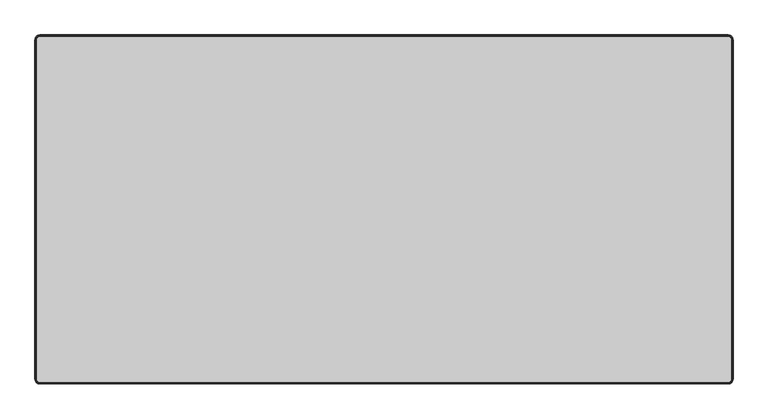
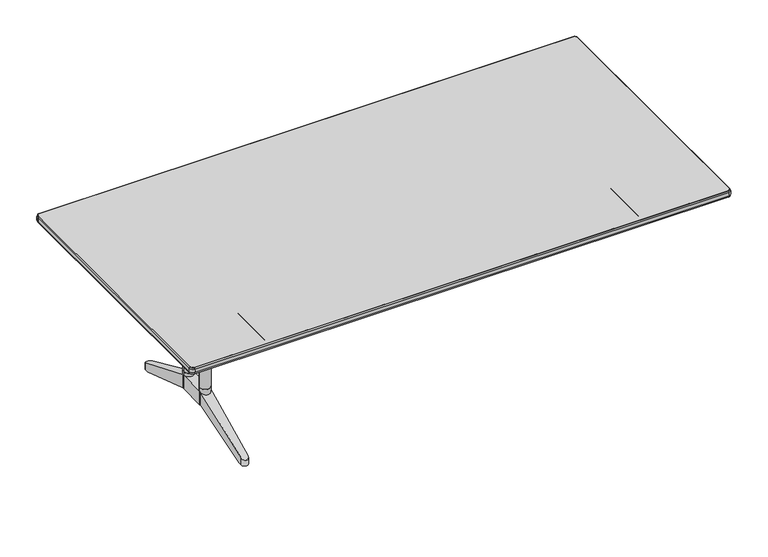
"""IFC4 building model written with IfcOpenShell, lengths in millimetres: furniture geometry, Furniture_Wilkhahn_614-00_TimetableShift : TIMETABLE SHIFT 614/00 2100L x 1050W."""

from ifc_helpers import new_model, si_unit, point, frame, frame_2d, origin, place, context, project, spatial, polyline, circle_curve, ellipse_curve, trimmed, segment, composite_curve, outline, extrude, source, transform, mapped, element, save
from ifc_brep_helpers import plane_surface, cylinder_surface, revolved_surface, advanced_brep


def furniture_36a09803(model_context):
    return source(origin(), model_context, "Body", "SolidModel", [
        extrude(outline(composite_curve([segment(trimmed(circle_curve(frame_2d((-725.0, -154.0488451)), 20.0), [point((-745.0, -154.0488451))], [point((-705.0, -154.0488451))], False, "CARTESIAN"), True, "CONTINUOUS"), segment(trimmed(circle_curve(frame_2d((-725.0, -154.0488451)), 20.0), [point((-705.0, -154.0488451))], [point((-745.0, -154.0488451))], False, "CARTESIAN"), True, "CONTINUOUS")], self_intersect=False)), frame((0.0, 0.0, 193.3080085), z_axis=(0.0, 0.0, 1.0), x_axis=(1.0, 0.0, 0.0)), (0.0, 0.0, 1.0), 68.8536941),
        extrude(outline(composite_curve([segment(trimmed(circle_curve(frame_2d((-725.0, -44.0488461)), 20.0), [point((-745.0, -44.0488461))], [point((-705.0, -44.0488461))], False, "CARTESIAN"), True, "CONTINUOUS"), segment(trimmed(circle_curve(frame_2d((-725.0, -44.0488461)), 20.0), [point((-705.0, -44.0488461))], [point((-745.0, -44.0488461))], False, "CARTESIAN"), True, "CONTINUOUS")], self_intersect=False)), frame((0.0, 0.0, 193.3080085), z_axis=(0.0, 0.0, 1.0), x_axis=(1.0, 0.0, 0.0)), (0.0, 0.0, 1.0), 68.8536941),
        extrude(outline(composite_curve([segment(trimmed(circle_curve(frame_2d((-725.0, -154.0488451)), 20.0), [point((-745.0, -154.0488451))], [point((-705.0, -154.0488451))], False, "CARTESIAN"), True, "CONTINUOUS"), segment(trimmed(circle_curve(frame_2d((-725.0, -154.0488451)), 20.0), [point((-705.0, -154.0488451))], [point((-745.0, -154.0488451))], False, "CARTESIAN"), True, "CONTINUOUS")], self_intersect=False)), frame((0.0, 0.0, 262.1617027), z_axis=(0.0, 0.0, 1.0), x_axis=(1.0, 0.0, 0.0)), (0.0, 0.0, 1.0), 317.8382973),
        extrude(outline(composite_curve([segment(trimmed(circle_curve(frame_2d((-725.0, -44.0488461)), 20.0), [point((-745.0, -44.0488461))], [point((-705.0, -44.0488461))], False, "CARTESIAN"), True, "CONTINUOUS"), segment(trimmed(circle_curve(frame_2d((-725.0, -44.0488461)), 20.0), [point((-705.0, -44.0488461))], [point((-745.0, -44.0488461))], False, "CARTESIAN"), True, "CONTINUOUS")], self_intersect=False)), frame((0.0, 0.0, 262.1617027), z_axis=(0.0, 0.0, 1.0), x_axis=(1.0, 0.0, 0.0)), (0.0, 0.0, 1.0), 317.8382973),
        extrude(outline(polyline([(-698.9999882, 147.9511612), (-698.9999882, -352.0488426), (-751.0000118, -352.0488426), (-751.0000118, 147.9511612), (-698.9999882, 147.9511612)])), frame((0.0, 0.0, 676.0000168), z_axis=(0.0, 0.0, 1.0), x_axis=(1.0, 0.0, 0.0)), (0.0, 0.0, 1.0), 27.9999624),
        advanced_brep(
        [(-739.9998762, -140.8200278, 676.0000168), (-709.9998905, -140.8201331, 676.0000168), (-709.9998905, -134.0488456, 676.0000168), (-739.9998762, -134.0488456, 676.0000168), (-709.9998905, -57.2775581, 676.0000168), (-739.9998762, -57.2776634, 676.0000168), (-739.9998762, -64.0488456, 676.0000168), (-709.9998905, -64.0488456, 676.0000168), (-739.9998762, -57.2776634, 580.0), (-709.9998905, -57.2775581, 580.0), (-709.9998905, -140.8201331, 580.0), (-739.9998762, -140.8200278, 580.0), (-739.9998762, -134.0488456, 598.0000176), (-739.9998762, -64.0488456, 598.0000176), (-709.9998905, -64.0488456, 598.0000176), (-709.9998905, -134.0488456, 598.0000176)],
        [
            (0, 1, circle_curve(frame((-724.9999298, -154.0488451, 676.0000168), z_axis=(0.0, 0.0, 1.0), x_axis=(1.0, 0.0, 0.0)), 20.0)),
            (1, 2),
            (2, 3),
            (3, 0),
            (4, 5, circle_curve(frame((-724.9999298, -44.0488461, 676.0000168), z_axis=(0.0, 0.0, 1.0), x_axis=(1.0, 0.0, 0.0)), 20.0)),
            (5, 6),
            (6, 7),
            (7, 4),
            (8, 9, circle_curve(frame((-724.9999298, -44.0488461, 580.0), z_axis=(0.0, 0.0, -1.0), x_axis=(1.0, 0.0, 0.0)), 20.0)),
            (9, 10),
            (10, 11, circle_curve(frame((-724.9999298, -154.0488451, 580.0), z_axis=(0.0, 0.0, -1.0), x_axis=(1.0, 0.0, 0.0)), 20.0)),
            (11, 8),
            (11, 0),
            (3, 12),
            (12, 13),
            (13, 6),
            (5, 8),
            (10, 1),
            (9, 4),
            (7, 14),
            (14, 15),
            (15, 2),
            (15, 12),
            (14, 13),
        ],
        [
            plane_surface(frame((-739.9998762, -140.8200278, 676.0000168), z_axis=(0.0, 0.0, 1.0), x_axis=(0.0, -1.0, 0.0))),
            plane_surface(frame((-739.9998762, -140.8200278, 580.0), z_axis=(0.0, 0.0, -1.0), x_axis=(0.0, 1.0, 0.0))),
            plane_surface(frame((-739.9998762, -57.2776634, 676.0000168), z_axis=(-1.0, 0.0, 0.0), x_axis=(0.0, 0.0, -1.0))),
            cylinder_surface(frame((-724.9999298, -154.0488451, 580.0), z_axis=(0.0, 0.0, 1.0), x_axis=(1.0, 0.0, 0.0)), 20.0),
            plane_surface(frame((-709.9998905, -140.8201331, 676.0000168), z_axis=(1.0, 0.0, 0.0), x_axis=(0.0, 0.0, -1.0))),
            cylinder_surface(frame((-724.9999298, -44.0488461, 580.0), z_axis=(0.0, 0.0, 1.0), x_axis=(1.0, 0.0, 0.0)), 20.0),
            plane_surface(frame((-709.9998905, -134.0488456, 676.0000168), z_axis=(0.0, 1.0, 0.0), x_axis=(-1.0, 0.0, 0.0))),
            plane_surface(frame((-709.9998905, -134.0488456, 598.0000176), z_axis=(0.0, 0.0, 1.0), x_axis=(-1.0, 0.0, 0.0))),
            plane_surface(frame((-709.9998905, -64.0488456, 598.0000176), z_axis=(0.0, -1.0, 0.0), x_axis=(-1.0, 0.0, 0.0))),
        ],
        [
            (0, [[1, 2, 3, 4]]),
            (0, [[5, 6, 7, 8]]),
            (1, [[9, 10, 11, 12]]),
            (2, [[-12, 13, -4, 14, 15, 16, -6, 17]]),
            (3, [[-1, -13, -11, 18]]),
            (4, [[-10, 19, -8, 20, 21, 22, -2, -18]]),
            (5, [[-5, -19, -9, -17]]),
            (6, [[23, -14, -3, -22]]),
            (7, [[-23, -21, 24, -15]]),
            (8, [[-24, -20, -7, -16]]),
        ],
    ),
        advanced_brep(
        [(-711.5271049, 208.4135103, 105.0), (-738.472897, 208.4135103, 105.0), (-738.1262294, 221.8222582, 105.0), (-711.8737706, 221.8222564, 105.0), (-738.1262294, 221.8222582, 133.4205559), (-745.0000182, -44.0488461, 248.3080085), (-705.0000182, -44.0488461, 248.3080085), (-711.8737706, 221.8222564, 133.4205567), (-705.2000412, -36.3121196, 193.3080085), (-744.7999941, -36.3121196, 193.3080085), (-711.8737706, -419.9199475, 133.4205567), (-705.0000182, -154.0488451, 248.3080085), (-745.0000182, -154.0488451, 248.3080085), (-738.1262294, -419.9199493, 133.4205559), (-711.8737706, -419.9199475, 105.0), (-711.5271049, -406.5112014, 105.0), (-705.2000412, -161.7855715, 193.3080085), (-705.0000182, -154.0488451, 193.3080085), (-738.1262294, -419.9199493, 105.0), (-745.0000182, -154.0488451, 193.3080085), (-744.7999941, -161.7855715, 193.3080085), (-738.472897, -406.5112014, 105.0), (-745.0000182, -44.0488461, 193.3080085), (-705.0000182, -44.0488461, 193.3080085)],
        [
            (0, 1),
            (1, 2),
            (2, 3, circle_curve(frame((-725.0, 221.4828948, 105.0), z_axis=(0.0, 0.0, -1.0), x_axis=(1.0, 0.0, 0.0)), 13.1306156)),
            (3, 0),
            (4, 5),
            (5, 6),
            (6, 7),
            (7, 4, ellipse_curve(frame((-725.0, 221.4828948, 133.5672007), z_axis=(0.0, 0.3966672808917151, 0.9179624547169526), x_axis=(0.0, 0.9179624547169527, -0.39666728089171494)), 14.3040878, 13.1306156)),
            (0, 8),
            (8, 9),
            (9, 1),
            (10, 11),
            (11, 12),
            (12, 13),
            (13, 10, ellipse_curve(frame((-725.0, -419.5805859, 133.5672007), z_axis=(0.0, -0.3966672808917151, 0.9179624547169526), x_axis=(0.0, -0.9179624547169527, -0.39666728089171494)), 14.3040878, 13.1306156)),
            (10, 14),
            (14, 15),
            (15, 16),
            (16, 17),
            (17, 11),
            (13, 18),
            (18, 14, circle_curve(frame((-725.0, -419.5805859, 105.0), z_axis=(0.0, 0.0, 1.0), x_axis=(1.0, 0.0, 0.0)), 13.1306156)),
            (12, 19),
            (19, 20),
            (20, 21),
            (21, 18),
            (4, 2),
            (9, 22),
            (22, 5),
            (7, 3),
            (6, 23),
            (23, 8),
            (21, 15),
            (20, 16),
            (11, 6),
            (5, 12),
            (22, 19),
            (17, 23),
        ],
        [
            plane_surface(frame((-703.6205415, 208.4135103, 105.0), z_axis=(0.0, 0.0, -1.0), x_axis=(-1.0, 0.0, 0.0))),
            plane_surface(frame((-703.6205415, 235.9511544, 127.3152182), z_axis=(0.0, 0.3966672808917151, 0.9179624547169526), x_axis=(-1.0, 0.0, 0.0))),
            plane_surface(frame((-703.6205415, -36.3121196, 193.3080085), z_axis=(0.0, -0.3394229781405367, -0.9406338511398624), x_axis=(-1.0, 0.0, 0.0))),
            plane_surface(frame((-703.6205415, -154.0488451, 248.3080085), z_axis=(0.0, -0.3966672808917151, 0.9179624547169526), x_axis=(-1.0, 0.0, 0.0))),
            plane_surface(frame((-705.0000182, -154.0488451, 249.0000084), z_axis=(0.9996659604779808, -0.025845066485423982, 0.0), x_axis=(0.0, 0.0, -1.0))),
            cylinder_surface(frame((-725.0, -419.5805859, 90.0000025), z_axis=(0.0, 0.0, -1.0), x_axis=(1.0, 0.0, 0.0)), 13.1306156),
            plane_surface(frame((-738.1262294, -419.9199493, 249.0000084), z_axis=(-0.9996659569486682, -0.025845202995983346, 0.0), x_axis=(0.0, 0.0, -1.0))),
            plane_surface(frame((-745.0000182, -44.0488461, 249.0000084), z_axis=(-0.9996659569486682, 0.025845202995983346, 0.0), x_axis=(0.0, 0.0, -1.0))),
            cylinder_surface(frame((-725.0, 221.4828948, 0.0), z_axis=(0.0, 0.0, -1.0), x_axis=(1.0, 0.0, 0.0)), 13.1306156),
            plane_surface(frame((-711.8737706, 221.8222564, 249.0000084), z_axis=(0.9996659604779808, 0.025845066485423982, 0.0), x_axis=(0.0, 0.0, -1.0))),
            plane_surface(frame((-703.6205415, -434.0488456, 105.0), z_axis=(0.0, 0.0, -1.0), x_axis=(-1.0, 0.0, 0.0))),
            plane_surface(frame((-703.6205415, -406.5112014, 105.0), z_axis=(0.0, 0.3394229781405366, -0.9406338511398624), x_axis=(-1.0, 0.0, 0.0))),
            plane_surface(frame((-705.0000182, -44.0488461, 248.3080085), z_axis=(0.0, 0.0, 1.0), x_axis=(0.0, 1.0, 0.0))),
            plane_surface(frame((-745.0000182, -44.0488461, 248.3080085), z_axis=(-1.0, 0.0, 0.0), x_axis=(0.0, 0.0, -1.0))),
            plane_surface(frame((-705.0000182, -154.0488451, 248.3080085), z_axis=(1.0, 0.0, 0.0), x_axis=(0.0, 0.0, -1.0))),
            plane_surface(frame((-703.6205415, -44.0488461, 193.3080085), z_axis=(0.0, 0.0, -1.0), x_axis=(-1.0, 0.0, 0.0))),
        ],
        [
            (0, [[1, 2, 3, 4]]),
            (1, [[5, 6, 7, 8]]),
            (2, [[-1, 9, 10, 11]]),
            (3, [[12, 13, 14, 15]]),
            (4, [[16, 17, 18, 19, 20, -12]]),
            (5, [[-16, -15, 21, 22]]),
            (6, [[-21, -14, 23, 24, 25, 26]]),
            (7, [[27, -2, -11, 28, 29, -5]]),
            (8, [[-27, -8, 30, -3]]),
            (9, [[-30, -7, 31, 32, -9, -4]]),
            (10, [[33, -17, -22, -26]]),
            (11, [[-33, -25, 34, -18]]),
            (12, [[35, -6, 36, -13]]),
            (13, [[-36, -29, 37, -23]]),
            (14, [[-35, -20, 38, -31]]),
            (15, [[-10, -32, -38, -19, -34, -24, -37, -28]]),
        ],
    ),
        extrude(outline(composite_curve([segment(trimmed(circle_curve(frame_2d((-1035.0, 410.9511544)), 10.0), [point((-1045.0, 410.9511544))], [point((-1035.0, 420.9511544))], False, "CARTESIAN"), True, "CONTINUOUS"), segment(polyline([(-1035.0, 420.9511544), (1035.0, 420.9511544)]), True, "CONTINUOUS"), segment(trimmed(circle_curve(frame_2d((1035.0, 410.9511544)), 10.0), [point((1035.0, 420.9511544))], [point((1045.0, 410.9511544))], False, "CARTESIAN"), True, "CONTINUOUS"), segment(polyline([(1045.0, 410.9511544), (1045.0, -609.0488456)]), True, "CONTINUOUS"), segment(trimmed(circle_curve(frame_2d((1035.0, -609.0488456)), 10.0), [point((1045.0, -609.0488456))], [point((1035.0, -619.0488456))], False, "CARTESIAN"), True, "CONTINUOUS"), segment(polyline([(1035.0, -619.0488456), (-1035.0, -619.0488456)]), True, "CONTINUOUS"), segment(trimmed(circle_curve(frame_2d((-1035.0, -609.0488456)), 10.0), [point((-1035.0, -619.0488456))], [point((-1045.0, -609.0488456))], False, "CARTESIAN"), True, "CONTINUOUS"), segment(polyline([(-1045.0, -609.0488456), (-1045.0, 410.9511544)]), True, "CONTINUOUS")], self_intersect=False)), frame((0.0, 0.0, 703.9999792), z_axis=(0.0, 0.0, 1.0), x_axis=(1.0, 0.0, 0.0)), (0.0, 0.0, 1.0), 26.0000208),
        extrude(outline(composite_curve([segment(trimmed(circle_curve(frame_2d((689.999998, -725.0)), 3.5), [point((686.499998, -725.0))], [point((693.499998, -725.0))], False, "CARTESIAN"), True, "CONTINUOUS"), segment(trimmed(circle_curve(frame_2d((689.999998, -725.0)), 3.5), [point((693.499998, -725.0))], [point((686.499998, -725.0))], False, "CARTESIAN"), True, "CONTINUOUS")], self_intersect=False)), frame((0.0, -550.4394749, 0.0), z_axis=(0.0, 1.0, 0.0), x_axis=(0.0, 0.0, 1.0)), (0.0, 0.0, 1.0), 198.3906323),
        extrude(outline(composite_curve([segment(trimmed(circle_curve(frame_2d((689.999998, 725.0)), 3.5), [point((686.499998, 725.0))], [point((693.499998, 725.0))], False, "CARTESIAN"), True, "CONTINUOUS"), segment(trimmed(circle_curve(frame_2d((689.999998, 725.0)), 3.5), [point((693.499998, 725.0))], [point((686.499998, 725.0))], False, "CARTESIAN"), True, "CONTINUOUS")], self_intersect=False)), frame((0.0, -550.4394749, 0.0), z_axis=(0.0, 1.0, 0.0), x_axis=(0.0, 0.0, 1.0)), (0.0, 0.0, 1.0), 198.3906323),
        advanced_brep(
        [(-1035.0, -619.0488456, 703.9999792), (-1045.0, -609.0488456, 703.9999792), (-1045.0, -609.0488456, 730.0), (-1035.0, -619.0488456, 730.0), (-1035.0, -622.4983863, 710.4062743), (-1048.4495407, -609.0488456, 710.4062743), (-1046.2436764, -609.0488456, 703.9999792), (-1035.0, -620.292522, 703.9999792), (-1035.0, -622.4983863, 723.593705), (-1048.4495407, -609.0488456, 723.593705), (-1035.0, -620.292522, 730.0), (-1046.2436764, -609.0488456, 730.0), (1035.0, -619.0488456, 730.0), (1035.0, -619.0488456, 703.9999792), (1035.0, -620.292522, 703.9999792), (1035.0, -622.4983863, 710.4062743), (1035.0, -622.4983863, 723.593705), (1035.0, -620.292522, 730.0), (1045.0, -609.0488456, 703.9999792), (1045.0, -609.0488456, 730.0), (1048.4495407, -609.0488456, 710.4062743), (1046.2436764, -609.0488456, 703.9999792), (1048.4495407, -609.0488456, 723.593705), (1046.2436764, -609.0488456, 730.0), (1045.0, 410.9511544, 730.0), (1045.0, 410.9511544, 703.9999792), (1046.2436764, 410.9511544, 703.9999792), (1048.4495407, 410.9511544, 710.4062743), (1048.4495407, 410.9511544, 723.593705), (1046.2436764, 410.9511544, 730.0), (1035.0, 420.9511544, 703.9999792), (1035.0, 420.9511544, 730.0), (1035.0, 424.4006952, 710.4062743), (1035.0, 422.1948309, 703.9999792), (1035.0, 424.4006952, 723.593705), (1035.0, 422.1948309, 730.0), (-1035.0, 420.9511544, 730.0), (-1035.0, 420.9511544, 703.9999792), (-1035.0, 422.1948309, 703.9999792), (-1035.0, 424.4006952, 710.4062743), (-1035.0, 424.4006952, 723.593705), (-1035.0, 422.1948309, 730.0), (-1045.0, 410.9511544, 703.9999792), (-1045.0, 410.9511544, 730.0), (-1048.4495407, 410.9511544, 710.4062743), (-1046.2436764, 410.9511544, 703.9999792), (-1048.4495407, 410.9511544, 723.593705), (-1046.2436764, 410.9511544, 730.0)],
        [
            (0, 1, circle_curve(frame((-1035.0, -609.0488456, 703.9999792), z_axis=(0.0, 0.0, -1.0), x_axis=(-1.0, 0.0, 0.0)), 10.0)),
            (1, 2),
            (2, 3, circle_curve(frame((-1035.0, -609.0488456, 730.0), z_axis=(0.0, 0.0, 1.0), x_axis=(-1.0, 0.0, 0.0)), 10.0)),
            (3, 0),
            (4, 5, circle_curve(frame((-1035.0, -609.0488456, 710.4062743), z_axis=(0.0, 0.0, -1.0), x_axis=(-1.0, 0.0, 0.0)), 13.4495407)),
            (5, 6),
            (6, 7, circle_curve(frame((-1035.0, -609.0488456, 703.9999792), z_axis=(0.0, 0.0, 1.0), x_axis=(-1.0, 0.0, 0.0)), 11.2436764)),
            (7, 4),
            (8, 9, circle_curve(frame((-1035.0, -609.0488456, 723.593705), z_axis=(0.0, 0.0, -1.0), x_axis=(-1.0, 0.0, 0.0)), 13.4495407)),
            (9, 5, circle_curve(frame((-1035.2040596, -609.0488456, 716.9999896), z_axis=(0.0, -1.0, 0.0), x_axis=(1.0, 0.0, 0.0)), 14.7959404)),
            (4, 8, circle_curve(frame((-1035.0, -609.2529051, 716.9999896), z_axis=(-1.0, 0.0, 0.0), x_axis=(0.0, 1.0, 0.0)), 14.7959404)),
            (10, 11, circle_curve(frame((-1035.0, -609.0488456, 730.0), z_axis=(0.0, 0.0, -1.0), x_axis=(-1.0, 0.0, 0.0)), 11.2436764)),
            (11, 9),
            (8, 10),
            (3, 12),
            (12, 13),
            (13, 0),
            (7, 14),
            (14, 15),
            (15, 4),
            (15, 16, circle_curve(frame((1035.0, -609.2529051, 716.9999896), z_axis=(-1.0, 0.0, 0.0), x_axis=(0.0, 1.0, 0.0)), 14.7959404)),
            (16, 8),
            (16, 17),
            (17, 10),
            (18, 13, circle_curve(frame((1035.0, -609.0488456, 703.9999792), z_axis=(0.0, 0.0, -1.0), x_axis=(0.0, -1.0, 0.0)), 10.0)),
            (12, 19, circle_curve(frame((1035.0, -609.0488456, 730.0), z_axis=(0.0, 0.0, 1.0), x_axis=(0.0, -1.0, 0.0)), 10.0)),
            (19, 18),
            (20, 15, circle_curve(frame((1035.0, -609.0488456, 710.4062743), z_axis=(0.0, 0.0, -1.0), x_axis=(0.0, -1.0, 0.0)), 13.4495407)),
            (14, 21, circle_curve(frame((1035.0, -609.0488456, 703.9999792), z_axis=(0.0, 0.0, 1.0), x_axis=(0.0, -1.0, 0.0)), 11.2436764)),
            (21, 20),
            (22, 16, circle_curve(frame((1035.0, -609.0488456, 723.593705), z_axis=(0.0, 0.0, -1.0), x_axis=(0.0, -1.0, 0.0)), 13.4495407)),
            (20, 22, circle_curve(frame((1035.2040596, -609.0488456, 716.9999896), z_axis=(0.0, -1.0, 0.0), x_axis=(-1.0, 0.0, 0.0)), 14.7959404)),
            (23, 17, circle_curve(frame((1035.0, -609.0488456, 730.0), z_axis=(0.0, 0.0, -1.0), x_axis=(0.0, -1.0, 0.0)), 11.2436764)),
            (22, 23),
            (19, 24),
            (24, 25),
            (25, 18),
            (21, 26),
            (26, 27),
            (27, 20),
            (27, 28, circle_curve(frame((1035.2040596, 410.9511544, 716.9999896), z_axis=(0.0, -1.0, 0.0), x_axis=(-1.0, 0.0, 0.0)), 14.7959404)),
            (28, 22),
            (28, 29),
            (29, 23),
            (30, 25, circle_curve(frame((1035.0, 410.9511544, 703.9999792), z_axis=(0.0, 0.0, -1.0), x_axis=(1.0, 0.0, 0.0)), 10.0)),
            (24, 31, circle_curve(frame((1035.0, 410.9511544, 730.0), z_axis=(0.0, 0.0, 1.0), x_axis=(1.0, 0.0, 0.0)), 10.0)),
            (31, 30),
            (32, 27, circle_curve(frame((1035.0, 410.9511544, 710.4062743), z_axis=(0.0, 0.0, -1.0), x_axis=(1.0, 0.0, 0.0)), 13.4495407)),
            (26, 33, circle_curve(frame((1035.0, 410.9511544, 703.9999792), z_axis=(0.0, 0.0, 1.0), x_axis=(1.0, 0.0, 0.0)), 11.2436764)),
            (33, 32),
            (34, 28, circle_curve(frame((1035.0, 410.9511544, 723.593705), z_axis=(0.0, 0.0, -1.0), x_axis=(1.0, 0.0, 0.0)), 13.4495407)),
            (32, 34, circle_curve(frame((1035.0, 411.155214, 716.9999896), z_axis=(1.0, 0.0, 0.0), x_axis=(0.0, -1.0, 0.0)), 14.7959404)),
            (35, 29, circle_curve(frame((1035.0, 410.9511544, 730.0), z_axis=(0.0, 0.0, -1.0), x_axis=(1.0, 0.0, 0.0)), 11.2436764)),
            (34, 35),
            (31, 36),
            (36, 37),
            (37, 30),
            (33, 38),
            (38, 39),
            (39, 32),
            (39, 40, circle_curve(frame((-1035.0, 411.155214, 716.9999896), z_axis=(1.0, 0.0, 0.0), x_axis=(0.0, -1.0, 0.0)), 14.7959404)),
            (40, 34),
            (40, 41),
            (41, 35),
            (42, 37, circle_curve(frame((-1035.0, 410.9511544, 703.9999792), z_axis=(0.0, 0.0, -1.0), x_axis=(0.0, 1.0, 0.0)), 10.0)),
            (36, 43, circle_curve(frame((-1035.0, 410.9511544, 730.0), z_axis=(0.0, 0.0, 1.0), x_axis=(0.0, 1.0, 0.0)), 10.0)),
            (43, 42),
            (44, 39, circle_curve(frame((-1035.0, 410.9511544, 710.4062743), z_axis=(0.0, 0.0, -1.0), x_axis=(0.0, 1.0, 0.0)), 13.4495407)),
            (38, 45, circle_curve(frame((-1035.0, 410.9511544, 703.9999792), z_axis=(0.0, 0.0, 1.0), x_axis=(0.0, 1.0, 0.0)), 11.2436764)),
            (45, 44),
            (46, 40, circle_curve(frame((-1035.0, 410.9511544, 723.593705), z_axis=(0.0, 0.0, -1.0), x_axis=(0.0, 1.0, 0.0)), 13.4495407)),
            (44, 46, circle_curve(frame((-1035.2040596, 410.9511544, 716.9999896), z_axis=(0.0, 1.0, 0.0), x_axis=(1.0, 0.0, 0.0)), 14.7959404)),
            (47, 41, circle_curve(frame((-1035.0, 410.9511544, 730.0), z_axis=(0.0, 0.0, -1.0), x_axis=(0.0, 1.0, 0.0)), 11.2436764)),
            (46, 47),
            (43, 2),
            (1, 42),
            (45, 6),
            (5, 44),
            (9, 46),
            (11, 47),
        ],
        [
            revolved_surface(polyline([(-1045.0, -609.0488456, 730.0), (-1045.0, -609.0488456, 703.9999792)]), (-1035.0, -609.0488456, 730.0), (0.0, 0.0, 1.0)),
            revolved_surface(polyline([(-1046.2436764, -609.0488456, 703.9999792), (-1048.4495407, -609.0488456, 710.4062743)]), (-1035.0, -609.0488456, 730.0), (0.0, 0.0, 1.0)),
            revolved_surface(trimmed(ellipse_curve(frame((-1035.2040596, -609.0488456, 716.9999896), z_axis=(0.0, 1.0, 0.0), x_axis=(1.0, 0.0, 0.0)), 14.7959404, 14.7959404), [point((-1048.4495407, -609.0488456, 710.4062743))], [point((-1048.4495407, -609.0488456, 723.593705))], True, "CARTESIAN"), (-1035.0, -609.0488456, 730.0), (0.0, 0.0, 1.0)),
            revolved_surface(polyline([(-1048.4495407, -609.0488456, 723.593705), (-1046.2436764, -609.0488456, 730.0)]), (-1035.0, -609.0488456, 730.0), (0.0, 0.0, 1.0)),
            plane_surface(frame((-1035.0, -619.0488456, 730.0), z_axis=(0.0, 1.0, 0.0), x_axis=(1.0, 0.0, 0.0))),
            plane_surface(frame((-1035.0, -620.292522, 703.9999792), z_axis=(0.0, -0.9455185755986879, -0.32556815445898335), x_axis=(1.0, 0.0, 0.0))),
            cylinder_surface(frame((-1035.0, -609.2529051, 716.9999896), z_axis=(-1.0, 0.0, 0.0), x_axis=(0.0, 1.0, 0.0)), 14.7959404),
            plane_surface(frame((-1035.0, -622.4983863, 723.593705), z_axis=(0.0, -0.945518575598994, 0.32556815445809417), x_axis=(1.0, 0.0, 0.0))),
            revolved_surface(polyline([(1035.0, -619.0488456, 730.0), (1035.0, -619.0488456, 703.9999792)]), (1035.0, -609.0488456, 730.0), (0.0, 0.0, 1.0)),
            revolved_surface(polyline([(1035.0, -620.292522, 703.9999792), (1035.0, -622.4983863, 710.4062743)]), (1035.0, -609.0488456, 730.0), (0.0, 0.0, 1.0)),
            revolved_surface(trimmed(ellipse_curve(frame((1035.0, -609.2529051, 716.9999896), z_axis=(-1.0, 0.0, 0.0), x_axis=(0.0, 1.0, 0.0)), 14.7959404, 14.7959404), [point((1035.0, -622.4983863, 710.4062743))], [point((1035.0, -622.4983863, 723.593705))], True, "CARTESIAN"), (1035.0, -609.0488456, 730.0), (0.0, 0.0, 1.0)),
            revolved_surface(polyline([(1035.0, -622.4983863, 723.593705), (1035.0, -620.292522, 730.0)]), (1035.0, -609.0488456, 730.0), (0.0, 0.0, 1.0)),
            plane_surface(frame((1045.0, -609.0488456, 730.0), z_axis=(-1.0, 0.0, 0.0), x_axis=(0.0, 1.0, 0.0))),
            plane_surface(frame((1046.2436764, -609.0488456, 703.9999792), z_axis=(0.9455185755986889, 0.0, -0.32556815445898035), x_axis=(0.0, 1.0, 0.0))),
            cylinder_surface(frame((1035.2040596, -609.0488456, 716.9999896), z_axis=(0.0, -1.0, 0.0), x_axis=(-1.0, 0.0, 0.0)), 14.7959404),
            plane_surface(frame((1048.4495407, -609.0488456, 723.593705), z_axis=(0.945518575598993, 0.0, 0.32556815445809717), x_axis=(0.0, 1.0, 0.0))),
            revolved_surface(polyline([(1045.0, 410.9511544, 730.0), (1045.0, 410.9511544, 703.9999792)]), (1035.0, 410.9511544, 730.0), (0.0, 0.0, 1.0)),
            revolved_surface(polyline([(1046.2436764, 410.9511544, 703.9999792), (1048.4495407, 410.9511544, 710.4062743)]), (1035.0, 410.9511544, 730.0), (0.0, 0.0, 1.0)),
            revolved_surface(trimmed(ellipse_curve(frame((1035.2040596, 410.9511544, 716.9999896), z_axis=(0.0, -1.0, 0.0), x_axis=(-1.0, 0.0, 0.0)), 14.7959404, 14.7959404), [point((1048.4495407, 410.9511544, 710.4062743))], [point((1048.4495407, 410.9511544, 723.593705))], True, "CARTESIAN"), (1035.0, 410.9511544, 730.0), (0.0, 0.0, 1.0)),
            revolved_surface(polyline([(1048.4495407, 410.9511544, 723.593705), (1046.2436764, 410.9511544, 730.0)]), (1035.0, 410.9511544, 730.0), (0.0, 0.0, 1.0)),
            plane_surface(frame((1035.0, 420.9511544, 730.0), z_axis=(0.0, -1.0, 0.0), x_axis=(-1.0, 0.0, 0.0))),
            plane_surface(frame((1035.0, 422.1948309, 703.9999792), z_axis=(0.0, 0.9455185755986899, -0.32556815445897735), x_axis=(-1.0, 0.0, 0.0))),
            cylinder_surface(frame((1035.0, 411.155214, 716.9999896), z_axis=(1.0, 0.0, 0.0), x_axis=(0.0, -1.0, 0.0)), 14.7959404),
            plane_surface(frame((1035.0, 424.4006952, 723.593705), z_axis=(0.0, 0.945518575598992, 0.32556815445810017), x_axis=(-1.0, 0.0, 0.0))),
            revolved_surface(polyline([(-1035.0, 420.9511544, 730.0), (-1035.0, 420.9511544, 703.9999792)]), (-1035.0, 410.9511544, 730.0), (0.0, 0.0, 1.0)),
            revolved_surface(polyline([(-1035.0, 422.1948309, 703.9999792), (-1035.0, 424.4006952, 710.4062743)]), (-1035.0, 410.9511544, 730.0), (0.0, 0.0, 1.0)),
            revolved_surface(trimmed(ellipse_curve(frame((-1035.0, 411.155214, 716.9999896), z_axis=(1.0, 0.0, 0.0), x_axis=(0.0, -1.0, 0.0)), 14.7959404, 14.7959404), [point((-1035.0, 424.4006952, 710.4062743))], [point((-1035.0, 424.4006952, 723.593705))], True, "CARTESIAN"), (-1035.0, 410.9511544, 730.0), (0.0, 0.0, 1.0)),
            revolved_surface(polyline([(-1035.0, 424.4006952, 723.593705), (-1035.0, 422.1948309, 730.0)]), (-1035.0, 410.9511544, 730.0), (0.0, 0.0, 1.0)),
            plane_surface(frame((-1045.0, 410.9511544, 730.0), z_axis=(1.0, 0.0, 0.0), x_axis=(0.0, -1.0, 0.0))),
            plane_surface(frame((-1046.2436764, 410.9511544, 703.9999792), z_axis=(-0.9455185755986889, 0.0, -0.32556815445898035), x_axis=(0.0, -1.0, 0.0))),
            cylinder_surface(frame((-1035.2040596, 410.9511544, 716.9999896), z_axis=(0.0, 1.0, 0.0), x_axis=(1.0, 0.0, 0.0)), 14.7959404),
            plane_surface(frame((-1048.4495407, 410.9511544, 723.593705), z_axis=(-0.945518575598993, 0.0, 0.32556815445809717), x_axis=(0.0, -1.0, 0.0))),
            plane_surface(frame((-1045.0, 410.9511544, 703.9999792), z_axis=(0.0, 0.0, -1.0), x_axis=(0.0, -1.0, 0.0))),
            plane_surface(frame((-1046.2436764, 410.9511544, 730.0), z_axis=(0.0, 0.0, 1.0), x_axis=(0.0, -1.0, 0.0))),
        ],
        [
            (0, [[1, 2, 3, 4]]),
            (1, [[5, 6, 7, 8]]),
            (2, [[9, 10, -5, 11]]),
            (3, [[12, 13, -9, 14]]),
            (4, [[-4, 15, 16, 17]]),
            (5, [[-8, 18, 19, 20]]),
            (6, [[-11, -20, 21, 22]]),
            (7, [[-14, -22, 23, 24]]),
            (8, [[25, -16, 26, 27]]),
            (9, [[28, -19, 29, 30]]),
            (10, [[31, -21, -28, 32]]),
            (11, [[33, -23, -31, 34]]),
            (12, [[-27, 35, 36, 37]]),
            (13, [[-30, 38, 39, 40]]),
            (14, [[-32, -40, 41, 42]]),
            (15, [[-34, -42, 43, 44]]),
            (16, [[45, -36, 46, 47]]),
            (17, [[48, -39, 49, 50]]),
            (18, [[51, -41, -48, 52]]),
            (19, [[53, -43, -51, 54]]),
            (20, [[-47, 55, 56, 57]]),
            (21, [[-50, 58, 59, 60]]),
            (22, [[-52, -60, 61, 62]]),
            (23, [[-54, -62, 63, 64]]),
            (24, [[65, -56, 66, 67]]),
            (25, [[68, -59, 69, 70]]),
            (26, [[71, -61, -68, 72]]),
            (27, [[73, -63, -71, 74]]),
            (28, [[-67, 75, -2, 76]]),
            (29, [[-70, 77, -6, 78]]),
            (30, [[-72, -78, -10, 79]]),
            (31, [[-74, -79, -13, 80]]),
            (32, [[-77, -69, -58, -49, -38, -29, -18, -7], [-57, -65, -76, -1, -17, -25, -37, -45]]),
            (33, [[-64, -73, -80, -12, -24, -33, -44, -53], [-75, -66, -55, -46, -35, -26, -15, -3]]),
        ],
    ),
        advanced_brep(
        [(-750.9999286, -550.4394749, 701.7335614), (-750.9999286, -550.4394749, 686.7335614), (-670.1927788, -550.4394749, 678.733541), (-669.000359, -550.4394749, 693.733541), (669.000359, -550.4394749, 693.733541), (670.1927788, -550.4394749, 678.733541), (750.8748715, -550.4394749, 701.7335614), (750.8748715, -550.4394749, 686.7335614), (719.0003594, -550.4394749, 701.7335614), (720.1927792, -550.4394749, 686.7335614), (-719.0003594, -550.4394749, 701.7335614), (-720.1927792, -550.4394749, 686.7335614)],
        [
            (0, 1, circle_curve(frame((-750.9999286, -550.4394749, 694.2335614), z_axis=(-1.0, 0.0, 0.0), x_axis=(0.0, 0.0, -1.0)), 7.5)),
            (1, 0, circle_curve(frame((-750.9999286, -550.4394749, 694.2335614), z_axis=(-1.0, 0.0, 0.0), x_axis=(0.0, 0.0, -1.0)), 7.5)),
            (2, 3, ellipse_curve(frame((-669.5965689, -550.4394749, 686.233541), z_axis=(0.9968551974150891, 0.0, -0.07924465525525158), x_axis=(-0.0792446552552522, 0.0, -0.9968551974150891)), 7.5236604, 7.5)),
            (3, 4),
            (4, 5, ellipse_curve(frame((669.5965689, -550.4394749, 686.233541), z_axis=(-0.9968551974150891, 0.0, -0.07924465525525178), x_axis=(-0.07924465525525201, 0.0, 0.9968551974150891)), 7.5236604, 7.5)),
            (5, 2),
            (3, 2, ellipse_curve(frame((-669.5965689, -550.4394749, 686.233541), z_axis=(0.9968551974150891, 0.0, -0.07924465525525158), x_axis=(-0.0792446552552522, 0.0, -0.9968551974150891)), 7.5236604, 7.5)),
            (5, 4, ellipse_curve(frame((669.5965689, -550.4394749, 686.233541), z_axis=(-0.9968551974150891, 0.0, -0.07924465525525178), x_axis=(-0.07924465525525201, 0.0, 0.9968551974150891)), 7.5236604, 7.5)),
            (6, 7, circle_curve(frame((750.8748715, -550.4394749, 694.2335614), z_axis=(1.0, 0.0, 0.0), x_axis=(0.0, 0.0, -1.0)), 7.5)),
            (7, 6, circle_curve(frame((750.8748715, -550.4394749, 694.2335614), z_axis=(1.0, 0.0, 0.0), x_axis=(0.0, 0.0, -1.0)), 7.5)),
            (4, 8),
            (8, 9, ellipse_curve(frame((719.5965693, -550.4394749, 694.2335614), z_axis=(-0.9968551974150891, 0.0, -0.07924465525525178), x_axis=(0.07924465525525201, 0.0, -0.9968551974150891)), 7.5236604, 7.5)),
            (9, 5),
            (9, 8, ellipse_curve(frame((719.5965693, -550.4394749, 694.2335614), z_axis=(-0.9968551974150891, 0.0, -0.07924465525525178), x_axis=(0.07924465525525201, 0.0, -0.9968551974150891)), 7.5236604, 7.5)),
            (8, 6),
            (7, 9),
            (0, 10),
            (10, 11, ellipse_curve(frame((-719.5965693, -550.4394749, 694.2335614), z_axis=(-0.9968551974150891, 0.0, 0.07924465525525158), x_axis=(-0.0792446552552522, 0.0, -0.9968551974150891)), 7.5236604, 7.5)),
            (11, 1),
            (11, 10, ellipse_curve(frame((-719.5965693, -550.4394749, 694.2335614), z_axis=(-0.9968551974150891, 0.0, 0.07924465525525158), x_axis=(-0.0792446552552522, 0.0, -0.9968551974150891)), 7.5236604, 7.5)),
            (10, 3),
            (2, 11),
        ],
        [
            plane_surface(frame((-750.9999286, -624.0488456, 664.0000082), z_axis=(-1.0, 0.0, 0.0), x_axis=(0.0, 1.0, 0.0))),
            cylinder_surface(frame((-671.9999746, -550.4394749, 686.233541), z_axis=(-1.0, 0.0, 0.0), x_axis=(0.0, 0.0, -1.0)), 7.5),
            plane_surface(frame((750.8748715, -624.0488456, 664.0000082), z_axis=(1.0, 0.0, 0.0), x_axis=(0.0, 1.0, 0.0))),
            cylinder_surface(frame((667.2233486, -550.4394749, 685.8538248), z_axis=(-0.9874405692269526, 0.0, -0.15799089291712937), x_axis=(0.15799089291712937, 0.0, -0.9874405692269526)), 7.5),
            cylinder_surface(frame((721.999975, -550.4394749, 694.2335614), z_axis=(-1.0, 0.0, 0.0), x_axis=(0.0, 0.0, -1.0)), 7.5),
            cylinder_surface(frame((-750.9999286, -550.4394749, 694.2335614), z_axis=(-1.0, 0.0, 0.0), x_axis=(0.0, 0.0, -1.0)), 7.5),
            cylinder_surface(frame((-717.2233489, -550.4394749, 693.8538452), z_axis=(-0.9874405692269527, 0.0, 0.15799089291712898), x_axis=(-0.15799089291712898, 0.0, -0.9874405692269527)), 7.5),
        ],
        [
            (0, [[1, 2]]),
            (1, [[3, 4, 5, 6]]),
            (1, [[7, -6, 8, -4]]),
            (2, [[9, 10]]),
            (3, [[-5, 11, 12, 13]]),
            (3, [[-8, -13, 14, -11]]),
            (4, [[-12, 15, -10, 16]]),
            (4, [[-14, -16, -9, -15]]),
            (5, [[-1, 17, 18, 19]]),
            (5, [[-2, -19, 20, -17]]),
            (6, [[-18, 21, -3, 22]]),
            (6, [[-20, -22, -7, -21]]),
        ],
    ),
        extrude(outline(polyline([(-66.0488461, 600.0000046), (-66.0488461, 658.0000254), (-64.0488456, 658.0000254), (-64.0488456, 598.0000176), (-134.0488456, 598.0000176), (-134.0488456, 658.0000254), (-132.048845, 658.0000254), (-132.048845, 600.0000046), (-66.0488461, 600.0000046)])), frame((-740.0, 0.0, 0.0), z_axis=(1.0, 0.0, 0.0), x_axis=(0.0, 1.0, 0.0)), (0.0, 0.0, 1.0), 1480.0),
    ])


if __name__ == "__main__":
    model = new_model("IFC4")
    model_context = context("Model", 3, world=origin())
    ifc_project = project(units=[si_unit("LENGTHUNIT", "METRE", prefix="MILLI")], contexts=[model_context])
    site = spatial("IfcSite", under=ifc_project)
    building = spatial("IfcBuilding", under=site)
    placement = place(None, origin())
    furniture_shape = furniture_36a09803(model_context)
    element("IfcFurniture", 1, ObjectType="Furniture_Wilkhahn_614-00_TimetableShift : TIMETABLE SHIFT 614/00 2100L x 1050W", at=placement, inside=building, context=model_context, shape_type="MappedRepresentation", body=[
        mapped(furniture_shape, transform((0.0, 0.0, 0.0), x_axis=(1.0, 0.0, 0.0), y_axis=(0.0, 1.0, 0.0), z_axis=(0.0, 0.0, 1.0))),
    ])
    save(model, "model.ifc")
